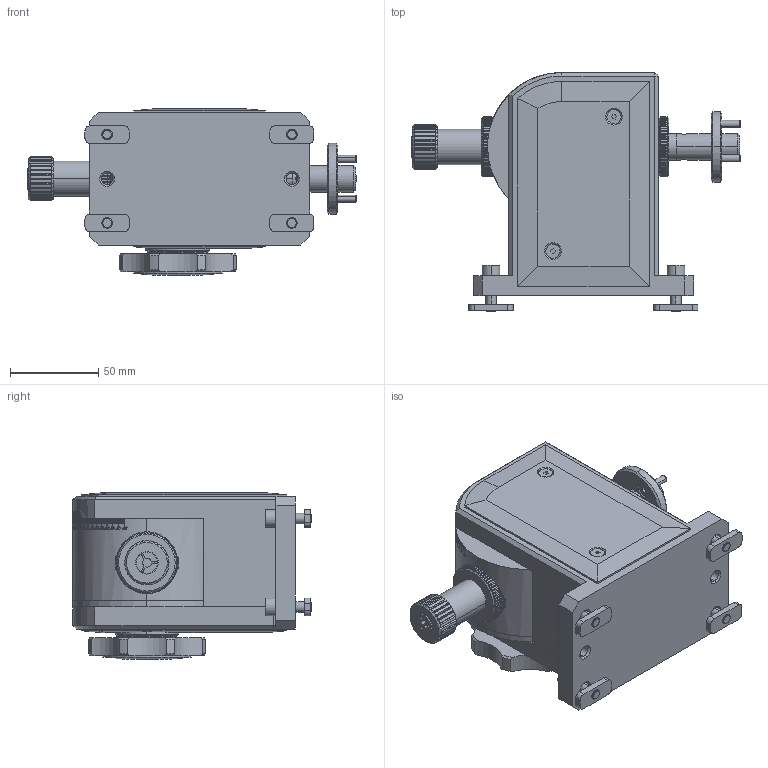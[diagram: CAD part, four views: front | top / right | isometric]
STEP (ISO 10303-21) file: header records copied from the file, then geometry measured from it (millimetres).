
FILE_DESCRIPTION (( 'STEP AP214' ), '1' );
FILE_NAME ('TPP_LS-01-00-000.STEP', '2021-02-04T09:32:56', ( '' ), ( '' ), 'SwSTEP 2.0', 'SolidWorks 2019', '' );
FILE_SCHEMA (( 'AUTOMOTIVE_DESIGN' ));
Length unit declared in the file: millimetre
Products named in the file (33): F6706 - Schupbach; TPP_LS-01-03-001; TPP_LS-01-02-004; F6705 - Schupbach; TPP_LS-01-02-002; TPP_LS-01-02-005; TPP_LS-01-03-005; BN20_M4x10; TPP_LS-01-01-004; TPP_LS-01-03-003; TPP_LS-01-01-001; 4100-1_16 - Nozag; TPP_LS-01-02-006; BN855; TPP_LS-01-04-001; 61804-2RZ - SKF; TPP_LS-01-03-008; 209001 0005 - Isel; BN272_M3x4; BN855-2; BN20_M4x16; Squelette TPI_LS-01; TPP_LS-01-04-002; TPP_LS-01-01-002; 76-78; TPP_LS-01-00-000; TPP_LS-01-02-003; TPP_LS-01-02-001; socket head cap screw_iso_ISO 4762 M6 x 20 --- 20N; TPP_LS-01-04-003; circlip for shafts normal_din_Circlip DIN 471 - 20 x 1.2; TPP_LS-01-01-003; TPP_LS-01-01-005
Assembly tree (53 placements, depth 2):
  Squelette TPI_LS-01
  TPP_LS-01-00-000
    TPP_LS-01-01-001
    TPP_LS-01-01-002
    TPP_LS-01-01-003
    TPP_LS-01-01-004
    TPP_LS-01-01-005
    TPP_LS-01-02-001
    TPP_LS-01-02-002
    TPP_LS-01-02-003
    TPP_LS-01-02-004
    TPP_LS-01-02-005
    TPP_LS-01-02-006
    TPP_LS-01-03-001
    TPP_LS-01-03-003
    TPP_LS-01-03-005
    TPP_LS-01-03-008
    TPP_LS-01-04-001
    TPP_LS-01-04-002
    TPP_LS-01-04-003
    76-78
    61804-2RZ - SKF
    4100-1_16 - Nozag  x3
    BN20_M4x16  x6
    BN20_M4x10  x7
    BN272_M3x4
    BN855  x4
    209001 0005 - Isel  x4
    socket head cap screw_iso_ISO 4762 M6 x 20 --- 20N  x4
    F6706 - Schupbach
    BN855-2
    circlip for shafts normal_din_Circlip DIN 471 - 20 x 1.2
    F6705 - Schupbach
Bounding box: 185.76 x 135 x 94 mm (x, y, z)
Volume: 850120.6 mm3; surface area: 231027.1 mm2
Topology: 53 solids, 53 shells, 3788 faces, 10097 edges, 6576 vertices
Faces by surface type: plane 1854, cylinder 802, bspline 565, cone 509, torus 58
Entity records: 138848 total; most frequent: CARTESIAN_POINT 69695, ORIENTED_EDGE 15610, DIRECTION 11485, EDGE_CURVE 7805, VERTEX_POINT 5115, AXIS2_PLACEMENT_3D 4332, EDGE_LOOP 3214, B_SPLINE_CURVE_WITH_KNOTS 2998
